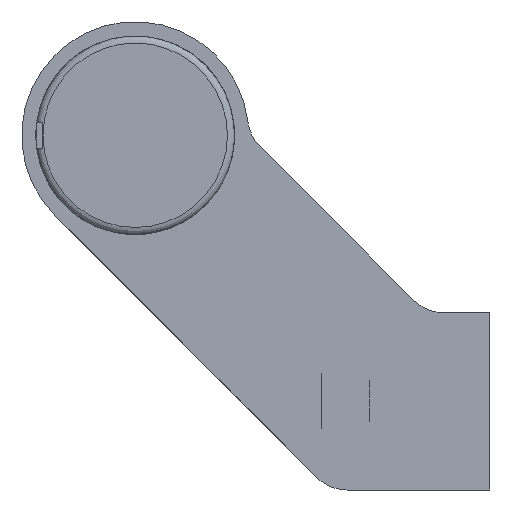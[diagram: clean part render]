
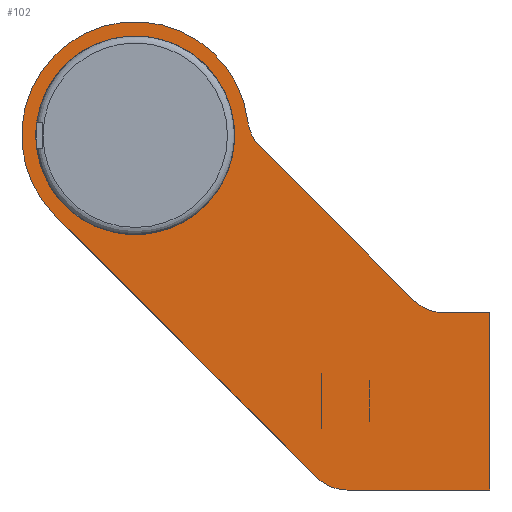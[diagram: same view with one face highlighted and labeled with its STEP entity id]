
A CAD part, left-side view. The second image highlights one B-rep face of the part: STEP entity #102.
In plain terms, the highlighted planar face has unit normal (-1, 0, 0).
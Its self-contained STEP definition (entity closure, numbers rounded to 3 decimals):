
#102 = ADVANCED_FACE( '', ( #191, #192 ), #193, .F. );
#191 = FACE_BOUND( '', #320, .T. );
#192 = FACE_OUTER_BOUND( '', #321, .T. );
#193 = PLANE( '', #322 );
#320 = EDGE_LOOP( '', ( #581 ) );
#321 = EDGE_LOOP( '', ( #582, #583, #584, #585, #586, #587, #588, #589, #590 ) );
#322 = AXIS2_PLACEMENT_3D( '', #591, #592, #593 );
#581 = ORIENTED_EDGE( '', *, *, #776, .T. );
#582 = ORIENTED_EDGE( '', *, *, #794, .F. );
#583 = ORIENTED_EDGE( '', *, *, #820, .F. );
#584 = ORIENTED_EDGE( '', *, *, #817, .F. );
#585 = ORIENTED_EDGE( '', *, *, #814, .F. );
#586 = ORIENTED_EDGE( '', *, *, #810, .F. );
#587 = ORIENTED_EDGE( '', *, *, #807, .T. );
#588 = ORIENTED_EDGE( '', *, *, #804, .F. );
#589 = ORIENTED_EDGE( '', *, *, #801, .T. );
#590 = ORIENTED_EDGE( '', *, *, #798, .F. );
#591 = CARTESIAN_POINT( '', ( -307., 50., 37.5 ) );
#592 = DIRECTION( '', ( 1., 0., 0. ) );
#593 = DIRECTION( '', ( 0., 0., -1. ) );
#776 = EDGE_CURVE( '', #900, #900, #901, .T. );
#794 = EDGE_CURVE( '', #931, #932, #933, .T. );
#798 = EDGE_CURVE( '', #932, #939, #940, .T. );
#801 = EDGE_CURVE( '', #944, #939, #945, .T. );
#804 = EDGE_CURVE( '', #944, #949, #950, .T. );
#807 = EDGE_CURVE( '', #954, #949, #955, .T. );
#810 = EDGE_CURVE( '', #954, #959, #960, .T. );
#814 = EDGE_CURVE( '', #959, #966, #967, .T. );
#817 = EDGE_CURVE( '', #966, #971, #972, .T. );
#820 = EDGE_CURVE( '', #971, #931, #976, .T. );
#900 = VERTEX_POINT( '', #1129 );
#901 = CIRCLE( '', #1130, 14. );
#931 = VERTEX_POINT( '', #1172 );
#932 = VERTEX_POINT( '', #1173 );
#933 = LINE( '', #1174, #1175 );
#939 = VERTEX_POINT( '', #1184 );
#940 = CIRCLE( '', #1185, 16. );
#944 = VERTEX_POINT( '', #1190 );
#945 = CIRCLE( '', #1191, 6. );
#949 = VERTEX_POINT( '', #1196 );
#950 = LINE( '', #1197, #1198 );
#954 = VERTEX_POINT( '', #1204 );
#955 = CIRCLE( '', #1205, 6. );
#959 = VERTEX_POINT( '', #1210 );
#960 = LINE( '', #1211, #1212 );
#966 = VERTEX_POINT( '', #1220 );
#967 = LINE( '', #1221, #1222 );
#971 = VERTEX_POINT( '', #1228 );
#972 = LINE( '', #1229, #1230 );
#976 = CIRCLE( '', #1236, 6. );
#1129 = CARTESIAN_POINT( '', ( -307., 50., 23.5 ) );
#1130 = AXIS2_PLACEMENT_3D( '', #1319, #1320, #1321 );
#1172 = CARTESIAN_POINT( '', ( -307., 24.385, -10.743 ) );
#1173 = CARTESIAN_POINT( '', ( -307., 61.314, 26.186 ) );
#1174 = CARTESIAN_POINT( '', ( -307., 24.385, -10.743 ) );
#1175 = VECTOR( '', #1360, 1000. );
#1184 = CARTESIAN_POINT( '', ( -307., 34.116, 39.424 ) );
#1185 = AXIS2_PLACEMENT_3D( '', #1364, #1365, #1366 );
#1190 = CARTESIAN_POINT( '', ( -307., 32.402, 35.902 ) );
#1191 = AXIS2_PLACEMENT_3D( '', #1371, #1372, #1373 );
#1196 = CARTESIAN_POINT( '', ( -307., 10.757, 14.257 ) );
#1197 = CARTESIAN_POINT( '', ( -307., 32.402, 35.902 ) );
#1198 = VECTOR( '', #1378, 1000. );
#1204 = CARTESIAN_POINT( '', ( -307., 6.515, 12.5 ) );
#1205 = AXIS2_PLACEMENT_3D( '', #1381, #1382, #1383 );
#1210 = CARTESIAN_POINT( '', ( -307., 0., 12.5 ) );
#1211 = CARTESIAN_POINT( '', ( -307., 6.515, 12.5 ) );
#1212 = VECTOR( '', #1388, 1000. );
#1220 = CARTESIAN_POINT( '', ( -307., 0., -12.5 ) );
#1221 = CARTESIAN_POINT( '', ( -307., 0., 12.5 ) );
#1222 = VECTOR( '', #1394, 1000. );
#1228 = CARTESIAN_POINT( '', ( -307., 20.142, -12.5 ) );
#1229 = CARTESIAN_POINT( '', ( -307., 0., -12.5 ) );
#1230 = VECTOR( '', #1397, 1000. );
#1236 = AXIS2_PLACEMENT_3D( '', #1400, #1401, #1402 );
#1319 = CARTESIAN_POINT( '', ( -307., 50., 37.5 ) );
#1320 = DIRECTION( '', ( 1., 0., 0. ) );
#1321 = DIRECTION( '', ( 0., 0., -1. ) );
#1360 = DIRECTION( '', ( 0., 0.707, 0.707 ) );
#1364 = CARTESIAN_POINT( '', ( -307., 50., 37.5 ) );
#1365 = DIRECTION( '', ( 1., 0., 0. ) );
#1366 = DIRECTION( '', ( 0., 0., -1. ) );
#1371 = CARTESIAN_POINT( '', ( -307., 28.16, 40.145 ) );
#1372 = DIRECTION( '', ( 1., 0., 0. ) );
#1373 = DIRECTION( '', ( 0., 0., -1. ) );
#1378 = DIRECTION( '', ( 0., -0.707, -0.707 ) );
#1381 = CARTESIAN_POINT( '', ( -307., 6.515, 18.5 ) );
#1382 = DIRECTION( '', ( 1., 0., 0. ) );
#1383 = DIRECTION( '', ( 0., 0., -1. ) );
#1388 = DIRECTION( '', ( 0., -1., 0. ) );
#1394 = DIRECTION( '', ( 0., 0., -1. ) );
#1397 = DIRECTION( '', ( 0., 1., 0. ) );
#1400 = CARTESIAN_POINT( '', ( -307., 20.142, -6.5 ) );
#1401 = DIRECTION( '', ( 1., 0., 0. ) );
#1402 = DIRECTION( '', ( 0., 0., -1. ) );
